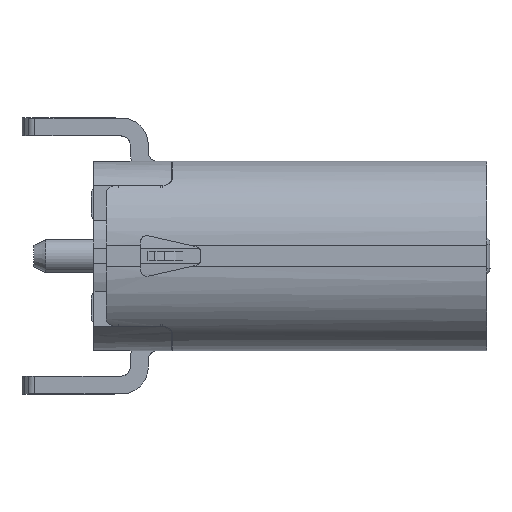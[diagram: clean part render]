
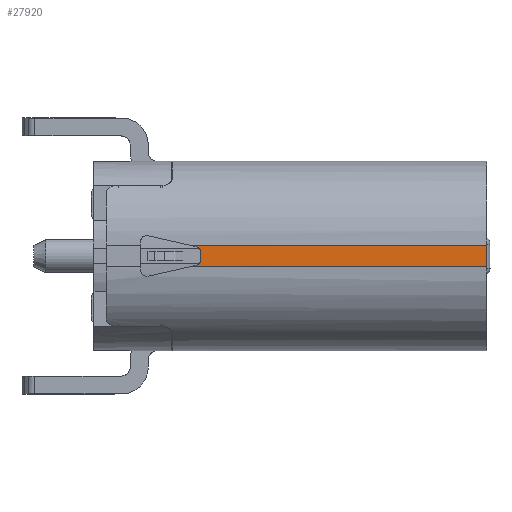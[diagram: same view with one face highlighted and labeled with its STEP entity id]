
A CAD part, left-side view. The second image highlights one B-rep face of the part: STEP entity #27920.
In plain terms, the highlighted planar face has unit normal (-1, 0, 0).
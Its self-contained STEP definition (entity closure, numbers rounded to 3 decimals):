
#2491 = VERTEX_POINT ( 'NONE', #51439 ) ;
#3498 = B_SPLINE_CURVE_WITH_KNOTS ( 'NONE', 3,
 ( #21579, #64516, #50035, #72887 ),
 .UNSPECIFIED., .F., .F.,
 ( 4, 4 ),
 ( 0., 1. ),
 .UNSPECIFIED. ) ;
#4128 = ORIENTED_EDGE ( 'NONE', *, *, #48702, .F. ) ;
#5572 = CARTESIAN_POINT ( 'NONE',  ( -4.47, 0.096, -0.509 ) ) ;
#5643 = LINE ( 'NONE', #90016, #41493 ) ;
#5912 = CARTESIAN_POINT ( 'NONE',  ( -4.47, -4.675, -0.63 ) ) ;
#7480 = ORIENTED_EDGE ( 'NONE', *, *, #63298, .F. ) ;
#10049 = CARTESIAN_POINT ( 'NONE',  ( -4.47, 0.174, -0.606 ) ) ;
#13230 = CARTESIAN_POINT ( 'NONE',  ( -4.47, -4.675, -0.27 ) ) ;
#13947 = CARTESIAN_POINT ( 'NONE',  ( -4.47, 0.174, -0.606 ) ) ;
#14653 = DIRECTION ( 'NONE',  ( 1., 0., 0. ) ) ;
#16039 = CARTESIAN_POINT ( 'NONE',  ( -4.47, -2.223, -0.45 ) ) ;
#16198 = CARTESIAN_POINT ( 'NONE',  ( -4.47, 0.096, -0.509 ) ) ;
#16893 = CARTESIAN_POINT ( 'NONE',  ( -4.47, 1.799, -0.27 ) ) ;
#17383 = EDGE_CURVE ( 'NONE', #50996, #24885, #75905, .T. ) ;
#19911 = ORIENTED_EDGE ( 'NONE', *, *, #21437, .F. ) ;
#20546 = CARTESIAN_POINT ( 'NONE',  ( -4.47, 0.28, -0.27 ) ) ;
#21437 = EDGE_CURVE ( 'NONE', #68299, #83333, #34323, .T. ) ;
#21579 = CARTESIAN_POINT ( 'NONE',  ( -4.47, 0.28, -0.63 ) ) ;
#22269 = ORIENTED_EDGE ( 'NONE', *, *, #49695, .F. ) ;
#24586 = CARTESIAN_POINT ( 'NONE',  ( -4.47, -4.675, -0.63 ) ) ;
#24885 = VERTEX_POINT ( 'NONE', #71418 ) ;
#25950 = DIRECTION ( 'NONE',  ( 0., 0.976, 0.22 ) ) ;
#27451 = CARTESIAN_POINT ( 'NONE',  ( -4.47, 0.096, -0.554 ) ) ;
#27920 = ADVANCED_FACE ( 'NONE', ( #56647 ), #86909, .F. ) ;
#32228 = LINE ( 'NONE', #16893, #86667 ) ;
#33404 = CARTESIAN_POINT ( 'NONE',  ( -4.47, 0.174, -0.294 ) ) ;
#34323 = LINE ( 'NONE', #33404, #85775 ) ;
#35269 = CARTESIAN_POINT ( 'NONE',  ( -4.47, -3.023, -0.63 ) ) ;
#37702 = EDGE_CURVE ( 'NONE', #24885, #60841, #3498, .T. ) ;
#37834 = CARTESIAN_POINT ( 'NONE',  ( -4.47, 0.174, -0.294 ) ) ;
#38854 = AXIS2_PLACEMENT_3D ( 'NONE', #16039, #14653, #79929 ) ;
#41344 = CARTESIAN_POINT ( 'NONE',  ( -4.47, -1.372, -0.63 ) ) ;
#41435 = LINE ( 'NONE', #54196, #46449 ) ;
#41493 = VECTOR ( 'NONE', #89111, 1000. ) ;
#45335 = DIRECTION ( 'NONE',  ( 0., -1., 0. ) ) ;
#46449 = VECTOR ( 'NONE', #56365, 1000. ) ;
#48347 = CARTESIAN_POINT ( 'NONE',  ( -4.47, 0.28, -0.63 ) ) ;
#48702 = EDGE_CURVE ( 'NONE', #60841, #66555, #71684, .T. ) ;
#49695 = EDGE_CURVE ( 'NONE', #2491, #68299, #69312, .T. ) ;
#50035 = CARTESIAN_POINT ( 'NONE',  ( -4.47, 0.209, -0.614 ) ) ;
#50549 = ORIENTED_EDGE ( 'NONE', *, *, #50822, .T. ) ;
#50822 = EDGE_CURVE ( 'NONE', #50996, #61048, #41435, .T. ) ;
#50996 = VERTEX_POINT ( 'NONE', #24586 ) ;
#51065 = EDGE_LOOP ( 'NONE', ( #90999, #50549, #60613, #19911, #22269, #7480, #4128, #89289 ) ) ;
#51439 = CARTESIAN_POINT ( 'NONE',  ( -4.47, 0.096, -0.391 ) ) ;
#54196 = CARTESIAN_POINT ( 'NONE',  ( -4.47, -4.675, -2.03 ) ) ;
#56365 = DIRECTION ( 'NONE',  ( 0., 0., 1. ) ) ;
#56647 = FACE_OUTER_BOUND ( 'NONE', #51065, .T. ) ;
#60613 = ORIENTED_EDGE ( 'NONE', *, *, #81016, .F. ) ;
#60841 = VERTEX_POINT ( 'NONE', #10049 ) ;
#61048 = VERTEX_POINT ( 'NONE', #13230 ) ;
#63298 = EDGE_CURVE ( 'NONE', #66555, #2491, #5643, .T. ) ;
#64516 = CARTESIAN_POINT ( 'NONE',  ( -4.47, 0.245, -0.622 ) ) ;
#64907 = CARTESIAN_POINT ( 'NONE',  ( -4.47, 0.096, -0.346 ) ) ;
#66555 = VERTEX_POINT ( 'NONE', #16198 ) ;
#68299 = VERTEX_POINT ( 'NONE', #73021 ) ;
#69312 = B_SPLINE_CURVE_WITH_KNOTS ( 'NONE', 3,
 ( #86790, #64907, #79369, #37834 ),
 .UNSPECIFIED., .F., .F.,
 ( 4, 4 ),
 ( 0., 1. ),
 .UNSPECIFIED. ) ;
#71418 = CARTESIAN_POINT ( 'NONE',  ( -4.47, 0.28, -0.63 ) ) ;
#71684 = B_SPLINE_CURVE_WITH_KNOTS ( 'NONE', 3,
 ( #13947, #91313, #27451, #5572 ),
 .UNSPECIFIED., .F., .F.,
 ( 4, 4 ),
 ( 0., 1. ),
 .UNSPECIFIED. ) ;
#72887 = CARTESIAN_POINT ( 'NONE',  ( -4.47, 0.174, -0.606 ) ) ;
#73021 = CARTESIAN_POINT ( 'NONE',  ( -4.47, 0.174, -0.294 ) ) ;
#75905 = B_SPLINE_CURVE_WITH_KNOTS ( 'NONE', 3,
 ( #5912, #35269, #41344, #48347 ),
 .UNSPECIFIED., .F., .F.,
 ( 4, 4 ),
 ( 0.01, 1. ),
 .UNSPECIFIED. ) ;
#79369 = CARTESIAN_POINT ( 'NONE',  ( -4.47, 0.131, -0.304 ) ) ;
#79929 = DIRECTION ( 'NONE',  ( 0., 1., 0. ) ) ;
#81016 = EDGE_CURVE ( 'NONE', #83333, #61048, #32228, .T. ) ;
#83333 = VERTEX_POINT ( 'NONE', #20546 ) ;
#85775 = VECTOR ( 'NONE', #25950, 1000. ) ;
#86667 = VECTOR ( 'NONE', #45335, 1000. ) ;
#86790 = CARTESIAN_POINT ( 'NONE',  ( -4.47, 0.096, -0.391 ) ) ;
#86909 = PLANE ( 'NONE',  #38854 ) ;
#89111 = DIRECTION ( 'NONE',  ( 0., 0., 1. ) ) ;
#89289 = ORIENTED_EDGE ( 'NONE', *, *, #37702, .F. ) ;
#90016 = CARTESIAN_POINT ( 'NONE',  ( -4.47, 0.096, -0.45 ) ) ;
#90999 = ORIENTED_EDGE ( 'NONE', *, *, #17383, .F. ) ;
#91313 = CARTESIAN_POINT ( 'NONE',  ( -4.47, 0.131, -0.596 ) ) ;
